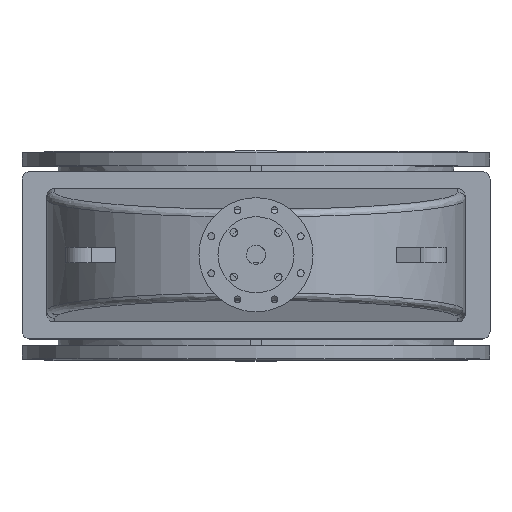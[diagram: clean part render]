
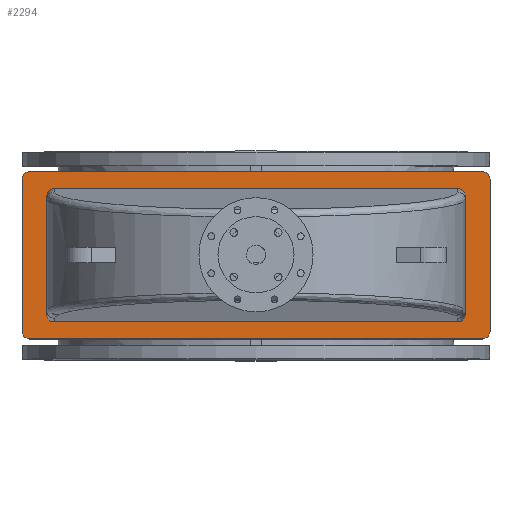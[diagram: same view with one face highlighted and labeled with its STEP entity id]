
A CAD part, top view. The second image highlights one B-rep face of the part: STEP entity #2294.
In plain terms, the highlighted planar face has unit normal (0, 0, 1).
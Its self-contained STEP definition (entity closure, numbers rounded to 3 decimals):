
#2294=ADVANCED_FACE('',(#6897,#6899),#6901,.T.);
#6897=FACE_BOUND('',#6898,.T.);
#6898=EDGE_LOOP('',(#9139,#9140,#9141,#9142,#9143,#9144,#9145,#9146));
#6899=FACE_BOUND('',#6900,.T.);
#6900=EDGE_LOOP('',(#9147,#9148,#9149,#9150,#9151,#9152,#9153,#9154));
#6901=PLANE('',#6902);
#6902=AXIS2_PLACEMENT_3D('',#6903,#6904,#6905);
#6903=CARTESIAN_POINT('',(0.,0.,1116.));
#6904=DIRECTION('',(0.,-0.,1.));
#6905=DIRECTION('',(0.,1.,0.));
#9139=ORIENTED_EDGE('',*,*,#9920,.F.);
#9140=ORIENTED_EDGE('',*,*,#9933,.T.);
#9141=ORIENTED_EDGE('',*,*,#9932,.F.);
#9142=ORIENTED_EDGE('',*,*,#9930,.T.);
#9143=ORIENTED_EDGE('',*,*,#9928,.F.);
#9144=ORIENTED_EDGE('',*,*,#9926,.T.);
#9145=ORIENTED_EDGE('',*,*,#9924,.F.);
#9146=ORIENTED_EDGE('',*,*,#9921,.T.);
#9147=ORIENTED_EDGE('',*,*,#9934,.F.);
#9148=ORIENTED_EDGE('',*,*,#9935,.F.);
#9149=ORIENTED_EDGE('',*,*,#9936,.F.);
#9150=ORIENTED_EDGE('',*,*,#9937,.F.);
#9151=ORIENTED_EDGE('',*,*,#9938,.F.);
#9152=ORIENTED_EDGE('',*,*,#9939,.F.);
#9153=ORIENTED_EDGE('',*,*,#9940,.F.);
#9154=ORIENTED_EDGE('',*,*,#9941,.F.);
#9920=EDGE_CURVE('',#11009,#11007,#11011,.F.);
#9921=EDGE_CURVE('',#11012,#11007,#11013,.T.);
#9924=EDGE_CURVE('',#11012,#11015,#11017,.F.);
#9926=EDGE_CURVE('',#11018,#11015,#11020,.T.);
#9928=EDGE_CURVE('',#11018,#11021,#11023,.F.);
#9930=EDGE_CURVE('',#11024,#11021,#11026,.T.);
#9932=EDGE_CURVE('',#11024,#11027,#11029,.F.);
#9933=EDGE_CURVE('',#11009,#11027,#11030,.T.);
#9934=EDGE_CURVE('',#11031,#11032,#11033,.F.);
#9935=EDGE_CURVE('',#11034,#11031,#11035,.T.);
#9936=EDGE_CURVE('',#11036,#11034,#11037,.T.);
#9937=EDGE_CURVE('',#11038,#11036,#11039,.T.);
#9938=EDGE_CURVE('',#11040,#11038,#11041,.F.);
#9939=EDGE_CURVE('',#11042,#11040,#11043,.T.);
#9940=EDGE_CURVE('',#11044,#11042,#11045,.T.);
#9941=EDGE_CURVE('',#11032,#11044,#11046,.T.);
#11007=VERTEX_POINT('',#14073);
#11009=VERTEX_POINT('',#14077);
#11011=CIRCLE('',#14081,20.);
#11012=VERTEX_POINT('',#14085);
#11013=LINE('',#14086,#14087);
#11015=VERTEX_POINT('',#14092);
#11017=CIRCLE('',#14096,20.);
#11018=VERTEX_POINT('',#14100);
#11020=LINE('',#14104,#14105);
#11021=VERTEX_POINT('',#14107);
#11023=CIRCLE('',#14111,20.);
#11024=VERTEX_POINT('',#14115);
#11026=LINE('',#14119,#14120);
#11027=VERTEX_POINT('',#14122);
#11029=CIRCLE('',#14126,20.);
#11030=LINE('',#14130,#14131);
#11031=VERTEX_POINT('',#14133);
#11032=VERTEX_POINT('',#14134);
#11033=(BOUNDED_CURVE()B_SPLINE_CURVE(3,
(#14135,#14136,#14137,#14138),
.UNSPECIFIED.,.F.,.F.)B_SPLINE_CURVE_WITH_KNOTS((4,4),
(0.,1.),
.UNSPECIFIED.)CURVE()GEOMETRIC_REPRESENTATION_ITEM()RATIONAL_B_SPLINE_CURVE((1.,
0.805,0.805,1.))REPRESENTATION_ITEM(''));
#11034=VERTEX_POINT('',#14139);
#11035=LINE('',#14140,#14141);
#11036=VERTEX_POINT('',#14143);
#11037=(BOUNDED_CURVE()B_SPLINE_CURVE(3,
(#14144,#14145,#14146,#14147),
.UNSPECIFIED.,.F.,.F.)B_SPLINE_CURVE_WITH_KNOTS((4,4),
(0.,1.),
.UNSPECIFIED.)CURVE()GEOMETRIC_REPRESENTATION_ITEM()RATIONAL_B_SPLINE_CURVE((1.,
0.805,0.805,1.))REPRESENTATION_ITEM(''));
#11038=VERTEX_POINT('',#14148);
#11039=LINE('',#14149,#14150);
#11040=VERTEX_POINT('',#14152);
#11041=(BOUNDED_CURVE()B_SPLINE_CURVE(3,
(#14153,#14154,#14155,#14156),
.UNSPECIFIED.,.F.,.F.)B_SPLINE_CURVE_WITH_KNOTS((4,4),
(0.,1.),
.UNSPECIFIED.)CURVE()GEOMETRIC_REPRESENTATION_ITEM()RATIONAL_B_SPLINE_CURVE((1.,
0.805,0.805,1.))REPRESENTATION_ITEM(''));
#11042=VERTEX_POINT('',#14157);
#11043=LINE('',#14158,#14159);
#11044=VERTEX_POINT('',#14161);
#11045=(BOUNDED_CURVE()B_SPLINE_CURVE(3,
(#14162,#14163,#14164,#14165),
.UNSPECIFIED.,.F.,.F.)B_SPLINE_CURVE_WITH_KNOTS((4,4),
(0.,1.),
.UNSPECIFIED.)CURVE()GEOMETRIC_REPRESENTATION_ITEM()RATIONAL_B_SPLINE_CURVE((1.,
0.805,0.805,1.))REPRESENTATION_ITEM(''));
#11046=LINE('',#14166,#14167);
#14073=CARTESIAN_POINT('',(-615.,-200.,1116.));
#14077=CARTESIAN_POINT('',(-595.,-220.,1116.));
#14081=AXIS2_PLACEMENT_3D('',#14082,#14083,#14084);
#14082=CARTESIAN_POINT('',(-595.,-200.,1116.));
#14083=DIRECTION('',(0.,-0.,1.));
#14084=DIRECTION('',(-1.,0.,0.));
#14085=CARTESIAN_POINT('',(-615.,200.,1116.));
#14086=CARTESIAN_POINT('',(-615.,200.,1116.));
#14087=VECTOR('',#14088,1.);
#14088=DIRECTION('',(0.,-1.,0.));
#14092=CARTESIAN_POINT('',(-595.,220.,1116.));
#14096=AXIS2_PLACEMENT_3D('',#14097,#14098,#14099);
#14097=CARTESIAN_POINT('',(-595.,200.,1116.));
#14098=DIRECTION('',(0.,-0.,1.));
#14099=DIRECTION('',(0.,1.,0.));
#14100=CARTESIAN_POINT('',(595.,220.,1116.));
#14104=CARTESIAN_POINT('',(595.,220.,1116.));
#14105=VECTOR('',#14106,1.);
#14106=DIRECTION('',(-1.,0.,0.));
#14107=CARTESIAN_POINT('',(615.,200.,1116.));
#14111=AXIS2_PLACEMENT_3D('',#14112,#14113,#14114);
#14112=CARTESIAN_POINT('',(595.,200.,1116.));
#14113=DIRECTION('',(0.,-0.,1.));
#14114=DIRECTION('',(1.,0.,0.));
#14115=CARTESIAN_POINT('',(615.,-200.,1116.));
#14119=CARTESIAN_POINT('',(615.,-200.,1116.));
#14120=VECTOR('',#14121,1.);
#14121=DIRECTION('',(0.,1.,0.));
#14122=CARTESIAN_POINT('',(595.,-220.,1116.));
#14126=AXIS2_PLACEMENT_3D('',#14127,#14128,#14129);
#14127=CARTESIAN_POINT('',(595.,-200.,1116.));
#14128=DIRECTION('',(0.,-0.,1.));
#14129=DIRECTION('',(0.,-1.,0.));
#14130=CARTESIAN_POINT('',(-595.,-220.,1116.));
#14131=VECTOR('',#14132,1.);
#14132=DIRECTION('',(1.,0.,0.));
#14133=CARTESIAN_POINT('',(530.,-175.,1116.));
#14134=CARTESIAN_POINT('',(550.,-154.924,1116.));
#14135=CARTESIAN_POINT('',(550.,-154.924,1116.));
#14136=CARTESIAN_POINT('',(550.,-166.684,1116.));
#14137=CARTESIAN_POINT('',(541.716,-175.,1116.));
#14138=CARTESIAN_POINT('',(530.,-175.,1116.));
#14139=CARTESIAN_POINT('',(-530.,-175.,1116.));
#14140=CARTESIAN_POINT('',(-530.,-175.,1116.));
#14141=VECTOR('',#14142,1.);
#14142=DIRECTION('',(1.,0.,0.));
#14143=CARTESIAN_POINT('',(-550.,-154.924,1116.));
#14144=CARTESIAN_POINT('',(-550.,-154.924,1116.));
#14145=CARTESIAN_POINT('',(-550.,-166.684,1116.));
#14146=CARTESIAN_POINT('',(-541.716,-175.,1116.));
#14147=CARTESIAN_POINT('',(-530.,-175.,1116.));
#14148=CARTESIAN_POINT('',(-550.,154.924,1116.));
#14149=CARTESIAN_POINT('',(-550.,154.924,1116.));
#14150=VECTOR('',#14151,1.);
#14151=DIRECTION('',(0.,-1.,0.));
#14152=CARTESIAN_POINT('',(-530.,175.,1116.));
#14153=CARTESIAN_POINT('',(-550.,154.924,1116.));
#14154=CARTESIAN_POINT('',(-550.,166.684,1116.));
#14155=CARTESIAN_POINT('',(-541.716,175.,1116.));
#14156=CARTESIAN_POINT('',(-530.,175.,1116.));
#14157=CARTESIAN_POINT('',(530.,175.,1116.));
#14158=CARTESIAN_POINT('',(530.,175.,1116.));
#14159=VECTOR('',#14160,1.);
#14160=DIRECTION('',(-1.,0.,0.));
#14161=CARTESIAN_POINT('',(550.,154.924,1116.));
#14162=CARTESIAN_POINT('',(550.,154.924,1116.));
#14163=CARTESIAN_POINT('',(550.,166.684,1116.));
#14164=CARTESIAN_POINT('',(541.716,175.,1116.));
#14165=CARTESIAN_POINT('',(530.,175.,1116.));
#14166=CARTESIAN_POINT('',(550.,-154.924,1116.));
#14167=VECTOR('',#14168,1.);
#14168=DIRECTION('',(0.,1.,0.));
